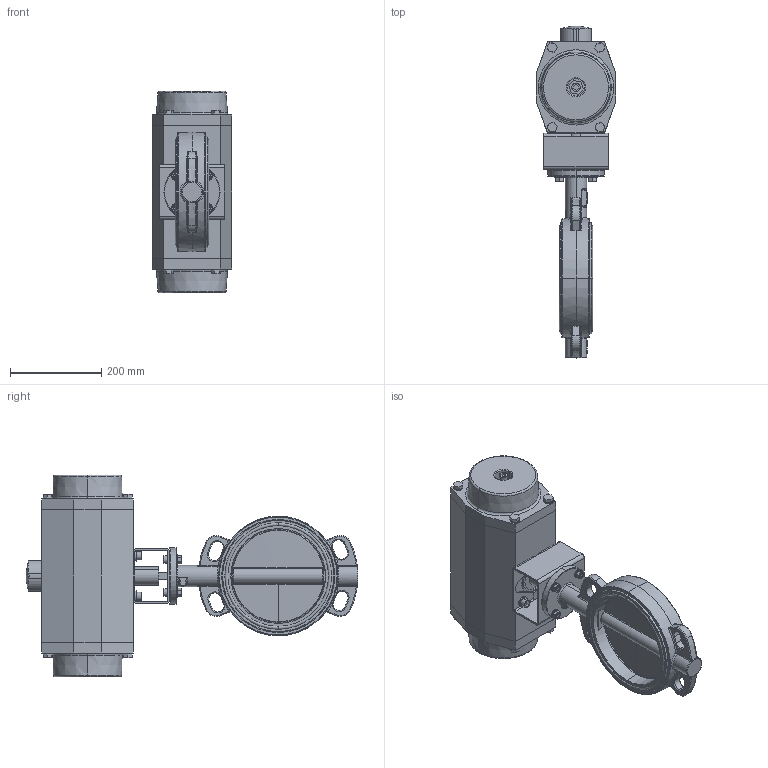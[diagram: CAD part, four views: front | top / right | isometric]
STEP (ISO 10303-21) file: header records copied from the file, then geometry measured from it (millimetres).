
FILE_DESCRIPTION (( 'STEP AP214' ), '1' );
FILE_NAME ('VTB200 DN200 + AP6S.STEP', '2015-12-02T15:43:00', ( '' ), ( '' ), 'SwSTEP 2.0', 'SolidWorks 2013', '' );
FILE_SCHEMA (( 'AUTOMOTIVE_DESIGN' ));
Length unit declared in the file: millimetre
Products named in the file (13): VTB200 Wafer DN200 BS 2013; Typeplaatje xxmm; Klep VTB200 DN200 2013; Huis met zitting DN200 2013; VTB200 DN200 + AP6S; socket head cap screw_iso_ISO 4762 M10 x 30 --- 30N; socket head cap screw_iso_ISO 4762 M12 x 20 --- 20N; plain washer normal grade c_iso_Washer ISO 7091 - 12; YA2717D4077K80; YB12080F10F12-4-S15; hex nut style 1 gradeab_iso_Hexagon Nut ISO - 4032 - M10 - W - N; AP6_Default<As Machined>; plain washer normal grade c_iso_Washer ISO 7091 - 10
Assembly tree (27 placements, depth 3):
  VTB200 DN200 + AP6S
    VTB200 Wafer DN200 BS 2013
      Huis met zitting DN200 2013
      Klep VTB200 DN200 2013
      Typeplaatje xxmm
    plain washer normal grade c_iso_Washer ISO 7091 - 10  x4
    AP6_Default<As Machined>
    hex nut style 1 gradeab_iso_Hexagon Nut ISO - 4032 - M10 - W - N  x4
    YB12080F10F12-4-S15
    YA2717D4077K80
    plain washer normal grade c_iso_Washer ISO 7091 - 12  x4
    socket head cap screw_iso_ISO 4762 M12 x 20 --- 20N  x4
    socket head cap screw_iso_ISO 4762 M10 x 30 --- 30N  x4
Bounding box: 175 x 727.9 x 442 mm (x, y, z)
Volume: 15236843.6 mm3; surface area: 881451.6 mm2
Topology: 37 solids, 37 shells, 1355 faces, 3178 edges, 1916 vertices
Faces by surface type: plane 559, cylinder 342, bspline 160, torus 158, cone 126, sphere 10
Entity records: 49453 total; most frequent: CARTESIAN_POINT 22476, ORIENTED_EDGE 5036, DIRECTION 4954, EDGE_CURVE 2518, AXIS2_PLACEMENT_3D 1919, VERTEX_POINT 1562, EDGE_LOOP 1180, LINE 1116
